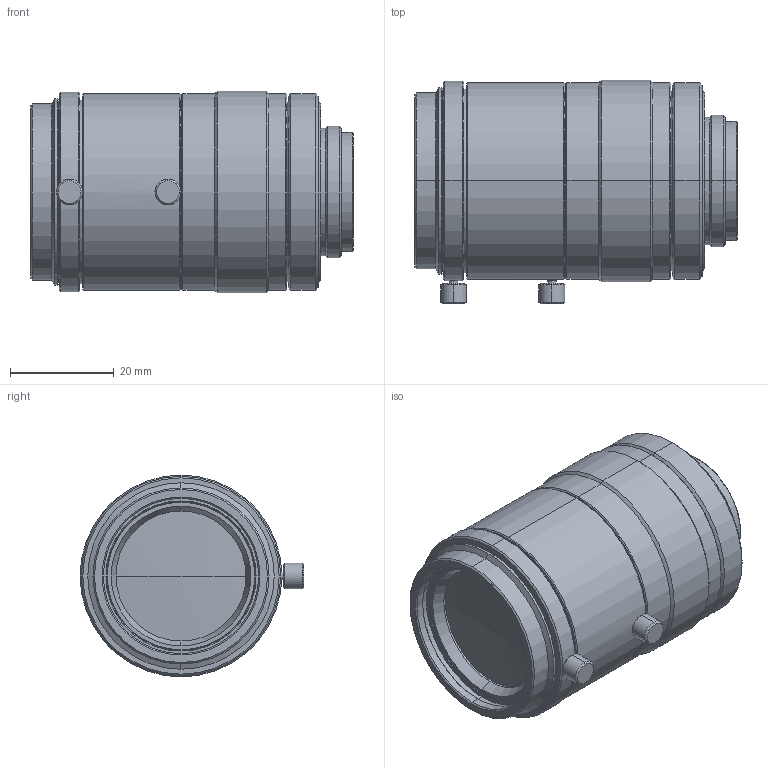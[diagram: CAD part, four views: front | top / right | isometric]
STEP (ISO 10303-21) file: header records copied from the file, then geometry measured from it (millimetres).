
FILE_DESCRIPTION (( 'STEP AP214' ), '1' );
FILE_NAME ('VS-LDV25.STEP', '2020-03-18T23:58:03', ( '' ), ( '' ), 'SwSTEP 2.0', 'SolidWorks 2018', '' );
FILE_SCHEMA (( 'AUTOMOTIVE_DESIGN' ));
Length unit declared in the file: millimetre
Products named in the file (1): VS-LDV25
Bounding box: 62.3 x 43.25 x 39 mm (x, y, z)
Volume: 61806.8 mm3; surface area: 11347.8 mm2
Topology: 1 solids, 1 shells, 134 faces, 268 edges, 156 vertices
Faces by surface type: cone 67, cylinder 44, plane 21, sphere 2
Entity records: 3547 total; most frequent: DIRECTION 687, CARTESIAN_POINT 620, ORIENTED_EDGE 536, AXIS2_PLACEMENT_3D 289, EDGE_CURVE 268, VERTEX_POINT 156, EDGE_LOOP 154, CIRCLE 154
